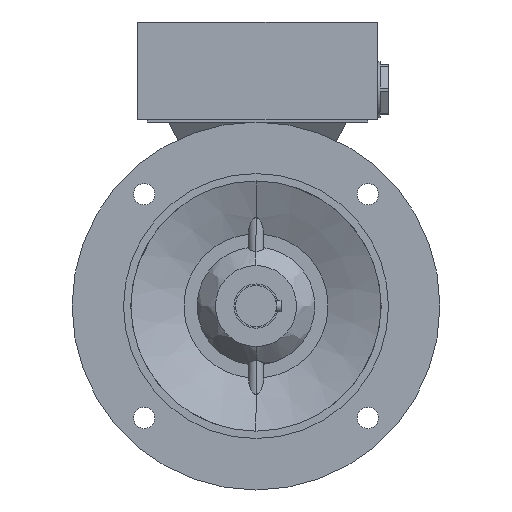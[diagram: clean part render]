
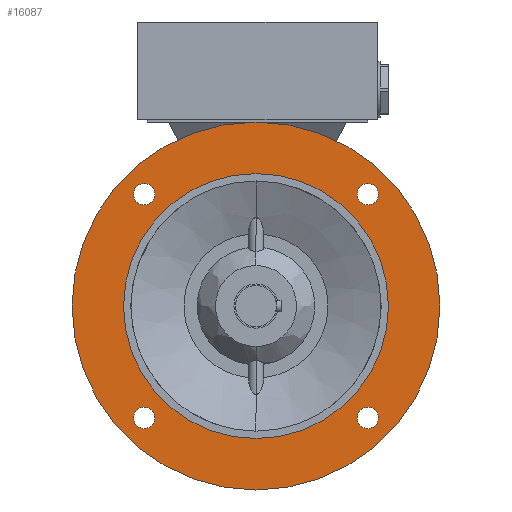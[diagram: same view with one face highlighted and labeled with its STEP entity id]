
A CAD part, left-side view. The second image highlights one B-rep face of the part: STEP entity #16087.
In plain terms, the highlighted planar face has unit normal (-1, 0, 0).
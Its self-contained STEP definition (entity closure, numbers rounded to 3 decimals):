
#312 = EDGE_CURVE ( 'NONE', #19243, #19245, #4260, .T. ) ;
#313 = EDGE_CURVE ( 'NONE', #19247, #19248, #4265, .T. ) ;
#314 = EDGE_CURVE ( 'NONE', #19234, #19242, #4268, .T. ) ;
#315 = EDGE_CURVE ( 'NONE', #19228, #19232, #4257, .T. ) ;
#316 = EDGE_CURVE ( 'NONE', #19223, #19227, #4270, .T. ) ;
#688 = CIRCLE ( 'NONE', #6941, 125. ) ;
#698 = CIRCLE ( 'NONE', #6943, 7.25 ) ;
#712 = CIRCLE ( 'NONE', #6957, 7.25 ) ;
#2237 = EDGE_LOOP ( 'NONE', ( #3520, #3522 ) ) ;
#2657 = CARTESIAN_POINT ( 'NONE',  ( -40.5, 0., 0. ) ) ;
#2658 = DIRECTION ( 'NONE',  ( 1., 0., 0. ) ) ;
#2659 = DIRECTION ( 'NONE',  ( 0., 0., 1. ) ) ;
#3503 = ORIENTED_EDGE ( 'NONE', *, *, #21613, .T. ) ;
#3505 = ORIENTED_EDGE ( 'NONE', *, *, #20016, .T. ) ;
#3507 = ORIENTED_EDGE ( 'NONE', *, *, #312, .F. ) ;
#3508 = ORIENTED_EDGE ( 'NONE', *, *, #23732, .F. ) ;
#3509 = ORIENTED_EDGE ( 'NONE', *, *, #313, .T. ) ;
#3511 = ORIENTED_EDGE ( 'NONE', *, *, #23733, .T. ) ;
#3512 = ORIENTED_EDGE ( 'NONE', *, *, #314, .T. ) ;
#3514 = ORIENTED_EDGE ( 'NONE', *, *, #23743, .T. ) ;
#3516 = ORIENTED_EDGE ( 'NONE', *, *, #315, .T. ) ;
#3518 = ORIENTED_EDGE ( 'NONE', *, *, #22981, .T. ) ;
#3520 = ORIENTED_EDGE ( 'NONE', *, *, #316, .T. ) ;
#3522 = ORIENTED_EDGE ( 'NONE', *, *, #22986, .T. ) ;
#4257 = CIRCLE ( 'NONE', #20220, 7.25 ) ;
#4260 = CIRCLE ( 'NONE', #20213, 125. ) ;
#4265 = CIRCLE ( 'NONE', #20215, 7.25 ) ;
#4268 = CIRCLE ( 'NONE', #20217, 7.25 ) ;
#4270 = CIRCLE ( 'NONE', #20222, 7.25 ) ;
#4300 = FACE_BOUND ( 'NONE', #20836, .T. ) ;
#4320 = FACE_BOUND ( 'NONE', #20844, .T. ) ;
#4322 = FACE_BOUND ( 'NONE', #20843, .T. ) ;
#4328 = FACE_BOUND ( 'NONE', #20845, .T. ) ;
#4332 = FACE_OUTER_BOUND ( 'NONE', #20842, .T. ) ;
#4335 = FACE_BOUND ( 'NONE', #2237, .T. ) ;
#4358 = CARTESIAN_POINT ( 'NONE',  ( -40.5, 0., 0. ) ) ;
#4361 = DIRECTION ( 'NONE',  ( 1., 0., 0. ) ) ;
#4364 = DIRECTION ( 'NONE',  ( 0., 0., 1. ) ) ;
#4993 = CIRCLE ( 'NONE', #6268, 90. ) ;
#5249 = CARTESIAN_POINT ( 'NONE',  ( -40.5, 0., -90. ) ) ;
#5272 = CARTESIAN_POINT ( 'NONE',  ( -40.5, -76.014, -83.264 ) ) ;
#5276 = CARTESIAN_POINT ( 'NONE',  ( -40.5, -76.014, -68.764 ) ) ;
#5277 = CARTESIAN_POINT ( 'NONE',  ( -40.5, 76.014, -83.264 ) ) ;
#5281 = CARTESIAN_POINT ( 'NONE',  ( -40.5, 76.014, -68.764 ) ) ;
#5283 = CARTESIAN_POINT ( 'NONE',  ( -40.5, 76.014, 68.764 ) ) ;
#5291 = CARTESIAN_POINT ( 'NONE',  ( -40.5, 76.014, 83.264 ) ) ;
#5292 = CARTESIAN_POINT ( 'NONE',  ( -40.5, 0., 125. ) ) ;
#5294 = CARTESIAN_POINT ( 'NONE',  ( -40.5, 0., -125. ) ) ;
#5296 = CARTESIAN_POINT ( 'NONE',  ( -40.5, -76.014, 68.764 ) ) ;
#5297 = CARTESIAN_POINT ( 'NONE',  ( -40.5, -76.014, 83.264 ) ) ;
#5300 = CARTESIAN_POINT ( 'NONE',  ( -40.5, 0., 90. ) ) ;
#5772 = CARTESIAN_POINT ( 'NONE',  ( -40.5, 76.014, -76.014 ) ) ;
#5773 = DIRECTION ( 'NONE',  ( 1., 0., 0. ) ) ;
#5774 = DIRECTION ( 'NONE',  ( 0., 0., -1. ) ) ;
#5784 = CARTESIAN_POINT ( 'NONE',  ( -40.5, -76.014, -76.014 ) ) ;
#5785 = DIRECTION ( 'NONE',  ( 1., 0., 0. ) ) ;
#5786 = DIRECTION ( 'NONE',  ( 0., 0., -1. ) ) ;
#6250 = CARTESIAN_POINT ( 'NONE',  ( -40.5, 0., 0. ) ) ;
#6252 = DIRECTION ( 'NONE',  ( 1., 0., 0. ) ) ;
#6254 = DIRECTION ( 'NONE',  ( 0., 0., 1. ) ) ;
#6259 = CARTESIAN_POINT ( 'NONE',  ( -40.5, -76.014, 76.014 ) ) ;
#6261 = DIRECTION ( 'NONE',  ( 1., 0., 0. ) ) ;
#6263 = DIRECTION ( 'NONE',  ( 0., 0., -1. ) ) ;
#6268 = AXIS2_PLACEMENT_3D ( 'NONE', #4358, #4361, #4364 ) ;
#6317 = CARTESIAN_POINT ( 'NONE',  ( -40.5, 76.014, 76.014 ) ) ;
#6319 = DIRECTION ( 'NONE',  ( 1., 0., 0. ) ) ;
#6321 = DIRECTION ( 'NONE',  ( 0., 0., -1. ) ) ;
#6636 = AXIS2_PLACEMENT_3D ( 'NONE', #2657, #2658, #2659 ) ;
#6896 = AXIS2_PLACEMENT_3D ( 'NONE', #5772, #5773, #5774 ) ;
#6901 = AXIS2_PLACEMENT_3D ( 'NONE', #5784, #5785, #5786 ) ;
#6941 = AXIS2_PLACEMENT_3D ( 'NONE', #6250, #6252, #6254 ) ;
#6943 = AXIS2_PLACEMENT_3D ( 'NONE', #6259, #6261, #6263 ) ;
#6957 = AXIS2_PLACEMENT_3D ( 'NONE', #6317, #6319, #6321 ) ;
#11747 = PLANE ( 'NONE',  #18561 ) ;
#11749 = DIRECTION ( 'NONE',  ( -1., 0., 0. ) ) ;
#11754 = CARTESIAN_POINT ( 'NONE',  ( -40.5, 107.5, 0. ) ) ;
#11755 = DIRECTION ( 'NONE',  ( 0., 0., 1. ) ) ;
#15047 = CARTESIAN_POINT ( 'NONE',  ( -40.5, 0., 0. ) ) ;
#15048 = DIRECTION ( 'NONE',  ( 1., 0., 0. ) ) ;
#15049 = DIRECTION ( 'NONE',  ( 0., 0., 1. ) ) ;
#15050 = CARTESIAN_POINT ( 'NONE',  ( -40.5, -76.014, 76.014 ) ) ;
#15051 = DIRECTION ( 'NONE',  ( 1., 0., 0. ) ) ;
#15052 = DIRECTION ( 'NONE',  ( 0., 0., -1. ) ) ;
#15053 = CARTESIAN_POINT ( 'NONE',  ( -40.5, 76.014, 76.014 ) ) ;
#15054 = DIRECTION ( 'NONE',  ( 1., 0., 0. ) ) ;
#15055 = DIRECTION ( 'NONE',  ( 0., 0., -1. ) ) ;
#15056 = CARTESIAN_POINT ( 'NONE',  ( -40.5, 76.014, -76.014 ) ) ;
#15057 = DIRECTION ( 'NONE',  ( 1., 0., 0. ) ) ;
#15058 = DIRECTION ( 'NONE',  ( 0., 0., -1. ) ) ;
#15059 = CARTESIAN_POINT ( 'NONE',  ( -40.5, -76.014, -76.014 ) ) ;
#15060 = DIRECTION ( 'NONE',  ( 1., 0., 0. ) ) ;
#15061 = DIRECTION ( 'NONE',  ( 0., 0., -1. ) ) ;
#16087 = ADVANCED_FACE ( 'NONE', ( #4320, #4332, #4322, #4328, #4300, #4335 ), #11747, .T. ) ;
#16933 = CIRCLE ( 'NONE', #6896, 7.25 ) ;
#16942 = CIRCLE ( 'NONE', #6901, 7.25 ) ;
#18561 = AXIS2_PLACEMENT_3D ( 'NONE', #11754, #11749, #11755 ) ;
#19200 = VERTEX_POINT ( 'NONE', #5249 ) ;
#19223 = VERTEX_POINT ( 'NONE', #5272 ) ;
#19227 = VERTEX_POINT ( 'NONE', #5276 ) ;
#19228 = VERTEX_POINT ( 'NONE', #5277 ) ;
#19232 = VERTEX_POINT ( 'NONE', #5281 ) ;
#19234 = VERTEX_POINT ( 'NONE', #5283 ) ;
#19242 = VERTEX_POINT ( 'NONE', #5291 ) ;
#19243 = VERTEX_POINT ( 'NONE', #5292 ) ;
#19245 = VERTEX_POINT ( 'NONE', #5294 ) ;
#19247 = VERTEX_POINT ( 'NONE', #5296 ) ;
#19248 = VERTEX_POINT ( 'NONE', #5297 ) ;
#19251 = VERTEX_POINT ( 'NONE', #5300 ) ;
#20016 = EDGE_CURVE ( 'NONE', #19200, #19251, #4993, .T. ) ;
#20213 = AXIS2_PLACEMENT_3D ( 'NONE', #15047, #15048, #15049 ) ;
#20215 = AXIS2_PLACEMENT_3D ( 'NONE', #15050, #15051, #15052 ) ;
#20217 = AXIS2_PLACEMENT_3D ( 'NONE', #15053, #15054, #15055 ) ;
#20220 = AXIS2_PLACEMENT_3D ( 'NONE', #15056, #15057, #15058 ) ;
#20222 = AXIS2_PLACEMENT_3D ( 'NONE', #15059, #15060, #15061 ) ;
#20836 = EDGE_LOOP ( 'NONE', ( #3516, #3518 ) ) ;
#20842 = EDGE_LOOP ( 'NONE', ( #3507, #3508 ) ) ;
#20843 = EDGE_LOOP ( 'NONE', ( #3509, #3511 ) ) ;
#20844 = EDGE_LOOP ( 'NONE', ( #3503, #3505 ) ) ;
#20845 = EDGE_LOOP ( 'NONE', ( #3512, #3514 ) ) ;
#21613 = EDGE_CURVE ( 'NONE', #19251, #19200, #23382, .T. ) ;
#22981 = EDGE_CURVE ( 'NONE', #19232, #19228, #16933, .T. ) ;
#22986 = EDGE_CURVE ( 'NONE', #19227, #19223, #16942, .T. ) ;
#23382 = CIRCLE ( 'NONE', #6636, 90. ) ;
#23732 = EDGE_CURVE ( 'NONE', #19245, #19243, #688, .T. ) ;
#23733 = EDGE_CURVE ( 'NONE', #19248, #19247, #698, .T. ) ;
#23743 = EDGE_CURVE ( 'NONE', #19242, #19234, #712, .T. ) ;
